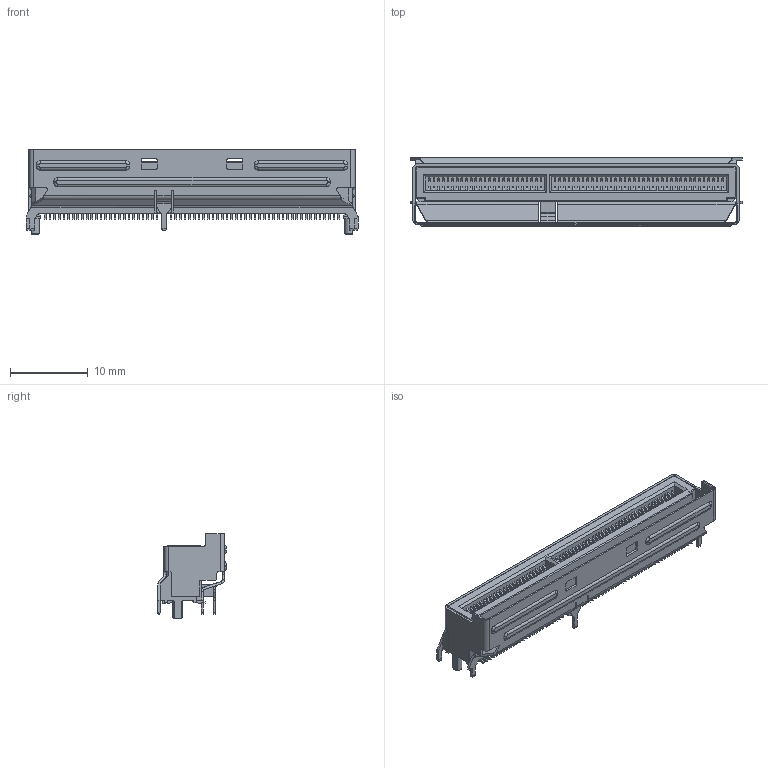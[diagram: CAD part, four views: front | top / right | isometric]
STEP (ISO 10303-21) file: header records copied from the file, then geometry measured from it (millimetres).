
FILE_DESCRIPTION((''),'2;1');
FILE_NAME('PMC124-3X0X-00X-XH_XX_CUSTOMER_','2026-07-20T13:56:25',('39002408'),(''),'CREO PARAMETRIC BY PTC INC, 2019471','CREO PARAMETRIC BY PTC INC, 2019471','');
FILE_SCHEMA(('AUTOMOTIVE_DESIGN { 1 0 10303 214 1 1 1 1 }'));
Products named in the file (1): PMC124-3X0X-00X-XH_XX_CUSTOMER_
Bounding box: 42.75 x 8.82 x 10.9 mm (x, y, z)
Volume: 1258.2 mm3; surface area: 3434.2 mm2
Topology: 1 solids, 1 shells, 2186 faces, 5893 edges, 3892 vertices
Faces by surface type: plane 1644, cylinder 516, bspline 20, cone 6
Entity records: 68775 total; most frequent: CARTESIAN_POINT 12696, ORIENTED_EDGE 11786, DIRECTION 11145, EDGE_CURVE 5893, VECTOR 4781, LINE 4781, VERTEX_POINT 3892, AXIS2_PLACEMENT_3D 3182
